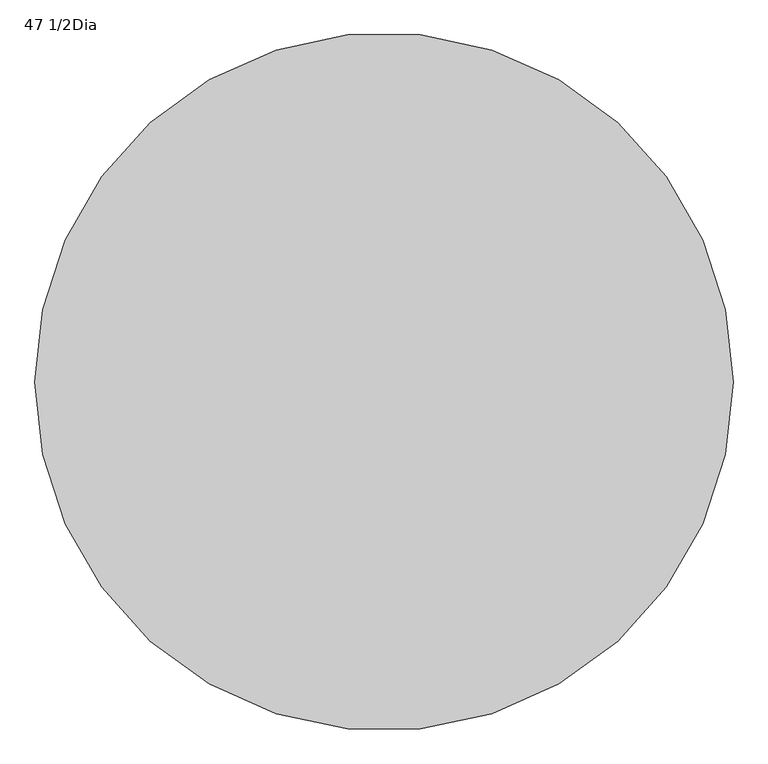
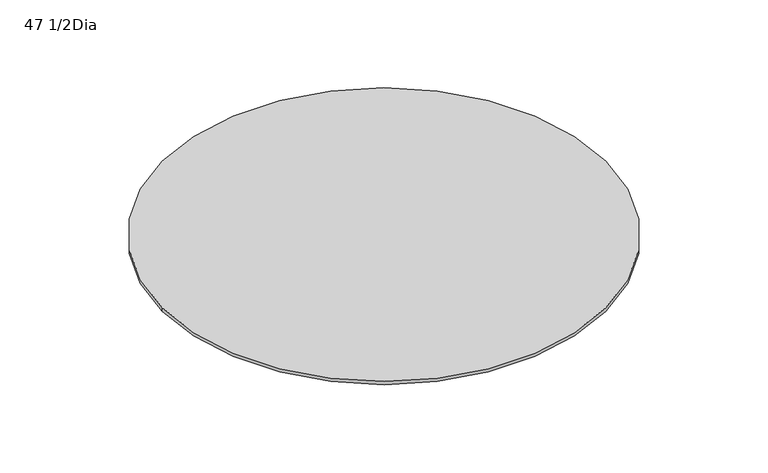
"""IFC4 building model written with IfcOpenShell, lengths in millimetres: furniture geometry, EMU_Table_Outdoor_Heaven_Pouf_GlassTop : 47 1/2Dia."""

import ifcopenshell
import ifcopenshell.guid

model = None  # the IFC model being written
_history = None  # IfcOwnerHistory: only IFC2X3 demands one
_inside = {}  # id of a spatial element -> (the spatial element, [elements in it])
_under = {}  # id of a project, library or spatial element -> (it, [spatial elements below it])
_declared = {}  # id of a project -> (the project, [libraries it declares])
_typed = {}  # id of a type object -> (the type object, [elements of that type])
_made_of = {}  # id of a material, layer set ... -> (it, [elements and type objects made of it])


def new_model(schema):
    """Start an empty IFC model of exactly this schema.

    Asked for "IFC4X3", IfcOpenShell would pick the latest addendum, in which some entities
    have other attributes; the version numbers below select the first issue.
    IFC2X3 requires an IfcOwnerHistory on every rooted entity: one is made here for all.
    """
    global model, _history
    if schema == "IFC4X3":
        model = ifcopenshell.file(schema_version=(4, 3, 0, 0))
    else:
        model = ifcopenshell.file(schema=schema)
    _inside.clear()
    _under.clear()
    _declared.clear()
    _typed.clear()
    _made_of.clear()
    _history = None
    if model.schema == "IFC2X3":
        org = make("IfcOrganization", Name="unknown")
        user = make(
            "IfcPersonAndOrganization",
            ThePerson=make("IfcPerson", FamilyName="unknown"),
            TheOrganization=org,
        )
        app = make(
            "IfcApplication",
            ApplicationDeveloper=org,
            Version="unknown",
            ApplicationFullName="unknown",
            ApplicationIdentifier="unknown",
        )
        _history = make(
            "IfcOwnerHistory",
            OwningUser=user,
            OwningApplication=app,
            ChangeAction="ADDED",
            CreationDate=0,
        )
    return model


def make(cls, **values):
    """One entity of the class cls with the attributes given. An attribute that is None is left unset."""
    return model.create_entity(
        cls, **{name: value for name, value in values.items() if value is not None}
    )


def rooted(cls, **values):
    """An entity with a GlobalId (a new one), such as an element, a storey or a relation."""
    return make(cls, GlobalId=ifcopenshell.guid.new(), OwnerHistory=_history, **values)


def si_unit(unit_type, name, prefix=None):
    """IfcSIUnit, for example si_unit("LENGTHUNIT", "METRE", prefix="MILLI")."""
    return make("IfcSIUnit", UnitType=unit_type, Prefix=prefix, Name=name)


def assignment(units):
    """IfcUnitAssignment: the units of a project."""
    return None if units is None else make("IfcUnitAssignment", Units=units)


def point(xyz):
    """IfcCartesianPoint."""
    return None if xyz is None else make("IfcCartesianPoint", Coordinates=xyz)


def direction(xyz):
    """IfcDirection."""
    return None if xyz is None else make("IfcDirection", DirectionRatios=xyz)


def frame(location, z_axis=None, x_axis=None):
    """IfcAxis2Placement3D, a coordinate frame: its origin and axes. An axis left out is left unset."""
    return make(
        "IfcAxis2Placement3D",
        Location=point(location),
        Axis=direction(z_axis),
        RefDirection=direction(x_axis),
    )


def frame_2d(location, x_axis=None):
    """IfcAxis2Placement2D, a coordinate frame in the plane: its origin and x axis."""
    return make(
        "IfcAxis2Placement2D", Location=point(location), RefDirection=direction(x_axis)
    )


def origin():
    """The frame at (0, 0, 0) with its axes left unset."""
    return frame((0.0, 0.0, 0.0))


def place(relative_to, where):
    """IfcLocalPlacement: puts the frame where relative to a parent placement (None: the world)."""
    return make(
        "IfcLocalPlacement", PlacementRelTo=relative_to, RelativePlacement=where
    )


def context(
    kind, dimensions, precision=None, world=None, true_north=None, identifier=None
):
    """IfcGeometricRepresentationContext, for example the 3D "Model" context."""
    return make(
        "IfcGeometricRepresentationContext",
        ContextIdentifier=identifier,
        ContextType=kind,
        CoordinateSpaceDimension=dimensions,
        Precision=precision,
        WorldCoordinateSystem=world,
        TrueNorth=true_north,
    )


def project(units=None, contexts=None):
    """IfcProject with its units and contexts."""
    return rooted(
        "IfcProject",
        Name="project",
        RepresentationContexts=contexts,
        UnitsInContext=assignment(units),
    )


def spatial(cls, under=None, at=None, **own):
    """A site, building, storey or space (cls), placed at a placement, below another one or the project."""
    s = rooted(cls, ObjectPlacement=at, **own)
    if under is not None:
        _under.setdefault(under.id(), (under, []))[1].append(s)
    return s


def circle_curve(where, radius):
    """IfcCircle in the frame where."""
    return make("IfcCircle", Position=where, Radius=radius)


def trimmed(basis, trim1, trim2, sense, master):
    """IfcTrimmedCurve: the piece of a basis curve between two trims."""
    return make(
        "IfcTrimmedCurve",
        BasisCurve=basis,
        Trim1=trim1,
        Trim2=trim2,
        SenseAgreement=sense,
        MasterRepresentation=master,
    )


def segment(curve, same_sense, transition):
    """IfcCompositeCurveSegment."""
    return make(
        "IfcCompositeCurveSegment",
        Transition=transition,
        SameSense=same_sense,
        ParentCurve=curve,
    )


def composite_curve(segments, self_intersect=None):
    """IfcCompositeCurve: segments joined end to end."""
    return make("IfcCompositeCurve", Segments=segments, SelfIntersect=self_intersect)


def outline(outer, holes=None, kind="AREA"):
    """IfcArbitraryClosedProfileDef: a profile drawn as a closed curve; with holes, ...WithVoids."""
    if holes is None:
        return make("IfcArbitraryClosedProfileDef", ProfileType=kind, OuterCurve=outer)
    return make(
        "IfcArbitraryProfileDefWithVoids",
        ProfileType=kind,
        OuterCurve=outer,
        InnerCurves=holes,
    )


def extrude(swept, where, along, depth):
    """IfcExtrudedAreaSolid: the profile swept, set in the frame where, extruded along a direction by depth."""
    return make(
        "IfcExtrudedAreaSolid",
        SweptArea=swept,
        Position=where,
        ExtrudedDirection=direction(along),
        Depth=depth,
    )


def shape(context_of_items, identifier, shape_type, items):
    """IfcShapeRepresentation: the items that make up one representation, for example the "Body"."""
    return make(
        "IfcShapeRepresentation",
        ContextOfItems=context_of_items,
        RepresentationIdentifier=identifier,
        RepresentationType=shape_type,
        Items=items,
    )


def source(mapping_origin, context_of_items, identifier, shape_type, items):
    """IfcRepresentationMap: a shape defined once, which mapped items show again and again."""
    return make(
        "IfcRepresentationMap",
        MappingOrigin=mapping_origin,
        MappedRepresentation=shape(context_of_items, identifier, shape_type, items),
    )


def transform(
    local_origin,
    x_axis=None,
    y_axis=None,
    z_axis=None,
    scale=None,
    scale2=None,
    scale3=None,
    uniform=True,
):
    """IfcCartesianTransformationOperator3D, or its non-uniform kind. x_axis, y_axis, z_axis: its Axis1, 2, 3."""
    if uniform:
        return make(
            "IfcCartesianTransformationOperator3D",
            Axis1=direction(x_axis),
            Axis2=direction(y_axis),
            LocalOrigin=point(local_origin),
            Scale=scale,
            Axis3=direction(z_axis),
        )
    return make(
        "IfcCartesianTransformationOperator3DnonUniform",
        Axis1=direction(x_axis),
        Axis2=direction(y_axis),
        LocalOrigin=point(local_origin),
        Scale=scale,
        Axis3=direction(z_axis),
        Scale2=scale2,
        Scale3=scale3,
    )


def mapped(mapping_source, mapping_target):
    """IfcMappedItem: shows the shape of a source again, moved by a transform."""
    return make(
        "IfcMappedItem", MappingSource=mapping_source, MappingTarget=mapping_target
    )


def made_of(thing, what):
    """Note that an element or type object is made of a material, layer set ...; save() writes the relation."""
    if what is not None:
        _made_of.setdefault(what.id(), (what, []))[1].append(thing)
    return thing


def element(
    cls,
    number,
    at=None,
    inside=None,
    cuts=None,
    type_object=None,
    material=None,
    context=None,
    identifier="Body",
    shape_type=None,
    held_by="IfcProductDefinitionShape",
    body=None,
    shapes=None,
    **own,
):
    """One element of the class cls, such as IfcWall. Its Tag is "e" and its number.

    at: its placement. inside: the storey or other place that contains it. cuts: it is an
    opening in that element (IfcRelVoidsElement). A single representation is given by context,
    identifier, shape_type and body (its items); several are given by shapes. held_by: the class
    of the entity that holds the representations. save() writes the other relations.
    """
    e = rooted(cls, Tag="e%d" % number, ObjectPlacement=at, **own)
    if body is not None:
        shapes = [shape(context, identifier, shape_type, body)]
    if shapes is not None:
        e.Representation = make(held_by, Representations=shapes)
    if inside is not None:
        _inside.setdefault(inside.id(), (inside, []))[1].append(e)
    if cuts is not None:
        rooted(
            "IfcRelVoidsElement", RelatingBuildingElement=cuts, RelatedOpeningElement=e
        )
    if type_object is not None:
        _typed.setdefault(type_object.id(), (type_object, []))[1].append(e)
    return made_of(e, material)


def aggregate(whole, parts):
    """IfcRelAggregates: a whole, such as a stair, and the parts it consists of."""
    return rooted("IfcRelAggregates", RelatingObject=whole, RelatedObjects=parts)


def save(model, path):
    """Write the relations noted so far, then the file.

    IfcRelAggregates (storeys below a building ...), IfcRelContainedInSpatialStructure (elements
    in a storey), IfcRelDefinesByType, IfcRelAssociatesMaterial and IfcRelDeclares: one each for
    every whole, place, type object, material and project.
    """
    for whole, parts in _under.values():
        aggregate(whole, parts)
    for where, things in _inside.values():
        rooted(
            "IfcRelContainedInSpatialStructure",
            RelatedElements=things,
            RelatingStructure=where,
        )
    for kind, things in _typed.values():
        rooted("IfcRelDefinesByType", RelatedObjects=things, RelatingType=kind)
    for what, things in _made_of.values():
        rooted("IfcRelAssociatesMaterial", RelatedObjects=things, RelatingMaterial=what)
    for by, libraries in _declared.values():
        rooted("IfcRelDeclares", RelatingContext=by, RelatedDefinitions=libraries)
    model.write(path)


def furniture_47_1_2dia_bd21ff6a(model_context):
    return source(origin(), model_context, "Body", "SweptSolid", [
        extrude(outline(composite_curve([segment(trimmed(circle_curve(frame_2d((604.5683304, -398.2983219)), 647.7), [point((-43.1316696, -398.2983219))], [point((1252.2683304, -398.2983219))], False, "CARTESIAN"), True, "CONTINUOUS"), segment(trimmed(circle_curve(frame_2d((604.5683304, -398.2983219)), 647.7), [point((1252.2683304, -398.2983219))], [point((-43.1316696, -398.2983219))], False, "CARTESIAN"), True, "CONTINUOUS")], self_intersect=False)), frame((0.0, 0.0, 740.8140112), z_axis=(0.0, 0.0, 1.0), x_axis=(1.0, 0.0, 0.0)), (0.0, 0.0, 1.0), 10.2668879),
    ])


if __name__ == "__main__":
    model = new_model("IFC4")
    model_context = context("Model", 3, world=origin())
    ifc_project = project(units=[si_unit("LENGTHUNIT", "METRE", prefix="MILLI")], contexts=[model_context])
    site = spatial("IfcSite", under=ifc_project)
    building = spatial("IfcBuilding", under=site)
    placement = place(None, origin())
    furniture_47_1_2dia_shape = furniture_47_1_2dia_bd21ff6a(model_context)
    element("IfcFurniture", 1, ObjectType="EMU_Table_Outdoor_Heaven_Pouf_GlassTop : 47 1/2Dia", at=placement, inside=building, context=model_context, shape_type="MappedRepresentation", body=[
        mapped(furniture_47_1_2dia_shape, transform((0.0, 0.0, 0.0), x_axis=(1.0, 0.0, 0.0), y_axis=(0.0, 1.0, 0.0), z_axis=(0.0, 0.0, 1.0))),
    ])
    save(model, "model.ifc")
